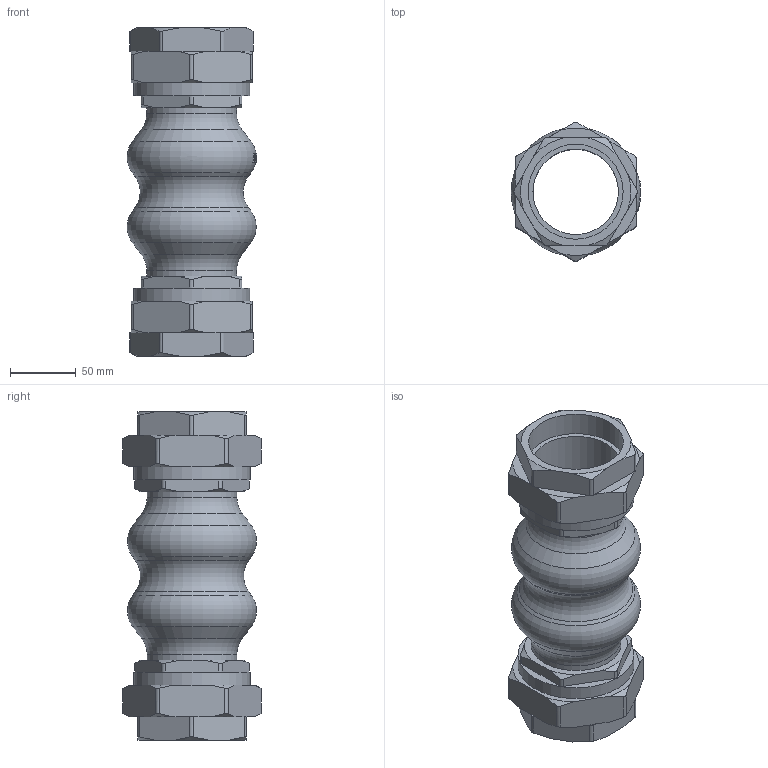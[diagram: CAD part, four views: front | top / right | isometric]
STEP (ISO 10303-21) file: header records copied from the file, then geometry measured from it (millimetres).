
FILE_DESCRIPTION(('STEP AP214'), '1');
FILE_NAME('CR-E17-T Êîìïåíñàòîð ðåçèíîâûé DN.ru Äó65 Ðó10-16', '2026-02-18T05:19:38', ('DN.RU'), (''), 'C3D Converter', 'C3D Toolkit', '');
FILE_SCHEMA(('AUTOMOTIVE_DESIGN { 1 0 10303 214 3 1 1}'));
Length unit declared in the file: millimetre
Products named in the file (1): CR-E17-T
Bounding box: 98.6 x 105.56 x 250 mm (x, y, z)
Volume: 642186.8 mm3; surface area: 139330.6 mm2
Topology: 1 solids, 1 shells, 237 faces, 636 edges, 416 vertices
Faces by surface type: plane 107, cone 52, cylinder 43, bspline 23, torus 12
Full cylindrical faces by diameter (mm): 65 x1, 68.226 x2, 72.226 x2, 88.226 x2
Entity records: 18419 total; most frequent: CARTESIAN_POINT 11201, ORIENTED_EDGE 1240, DIRECTION 890, EDGE_CURVE 620, VERTEX_POINT 416, AXIS2_PLACEMENT_3D 319, EDGE_LOOP 270, B_SPLINE_CURVE_WITH_KNOTS 264
